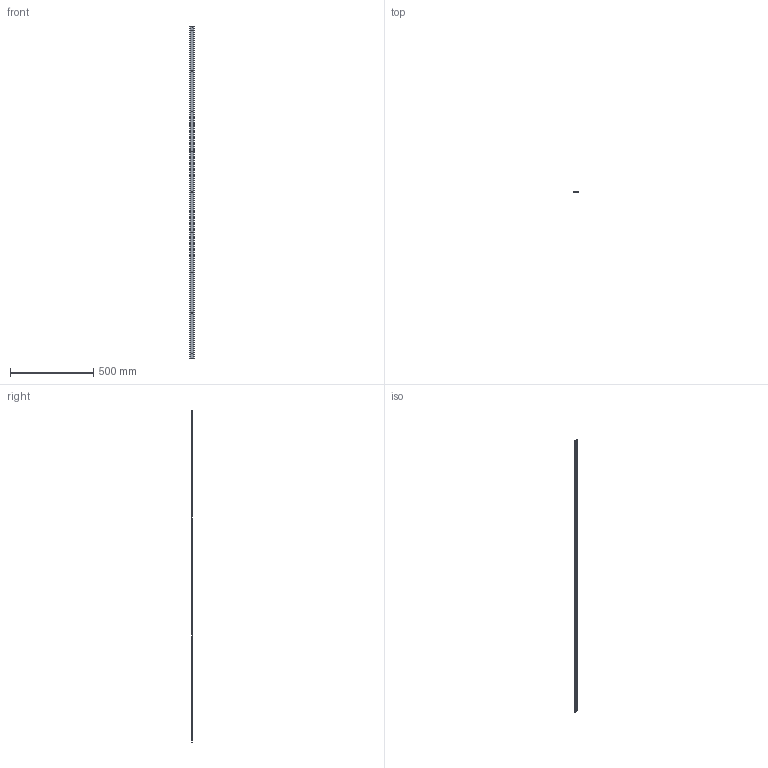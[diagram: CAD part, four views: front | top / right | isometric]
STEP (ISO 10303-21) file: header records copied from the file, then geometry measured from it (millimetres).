
FILE_DESCRIPTION (( 'STEP AP214' ), '1' );
FILE_NAME ('MN02436D02_00.STEP', '2025-02-10T06:58:30', ( '' ), ( '' ), 'SwSTEP 2.0', 'SolidWorks 2022', '' );
FILE_SCHEMA (( 'AUTOMOTIVE_DESIGN' ));
Length unit declared in the file: millimetre
Products named in the file (2): MN02436D02_00; MN02401D01_TRS25_ekstrudirana_letev_ekstrudirana_letev
Assembly tree (1 placements, depth 2):
  MN02436D02_00
    MN02401D01_TRS25_ekstrudirana_letev_ekstrudirana_letev
Bounding box: 25 x 4.5 x 2000 mm (x, y, z)
Volume: 147692 mm3; surface area: 124275.1 mm2
Topology: 1 solids, 1 shells, 164 faces, 486 edges, 324 vertices
Faces by surface type: cylinder 100, plane 64
Entity records: 5784 total; most frequent: CARTESIAN_POINT 1374, ORIENTED_EDGE 972, DIRECTION 878, EDGE_CURVE 486, AXIS2_PLACEMENT_3D 332, VERTEX_POINT 324, LINE 214, VECTOR 214
